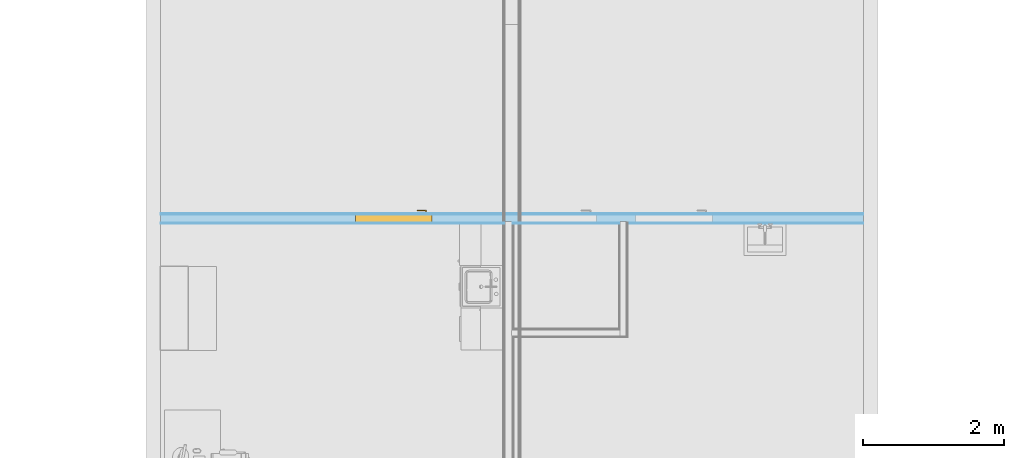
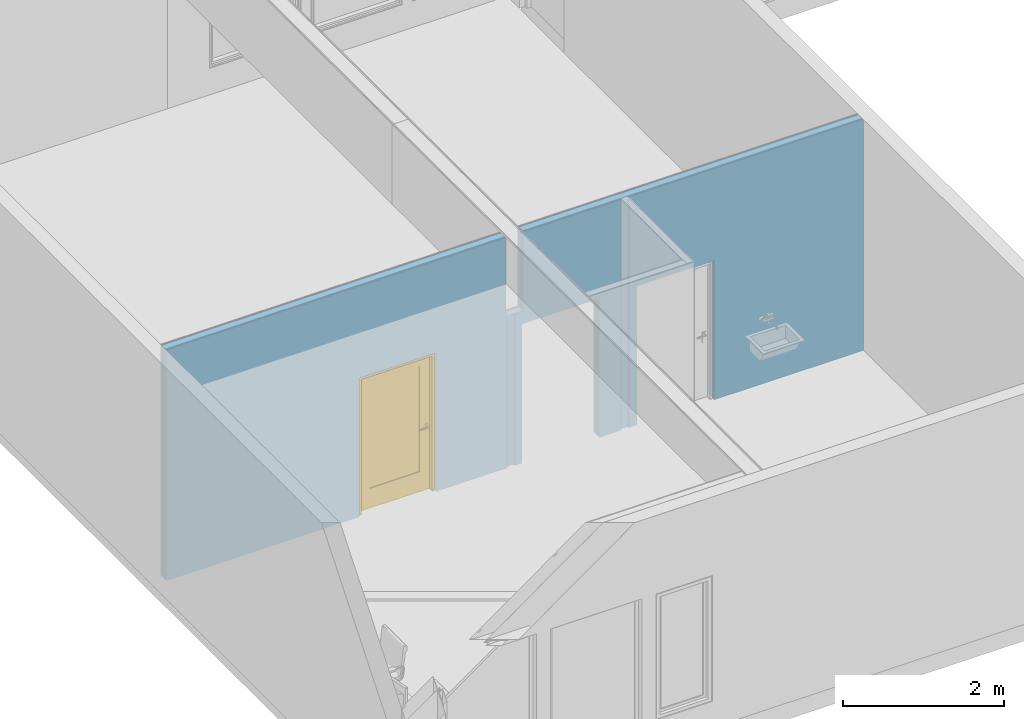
# One storey, part 5 of 12: 1 door, 3 openings, 1 element without a shape of its own, plus 9 elements that do not belong to this part.
"""IFC4 building model written with IfcOpenShell, lengths in millimetres."""

from ifc_helpers import new_model, entity, si_unit, converted_unit, direction, frame, origin, place, context, subcontext, project, spatial, indexed_curve, outline, extrude, polygons, source, transform, mapped, material, constituent, constituent_set, type_object, type_shapes, element, fill, aggregate, save


model = new_model("IFC4")

# Units and contexts
model_context = context("Model", 3, precision=0.01, world=origin(), true_north=direction((0.0, 1.0)))
body_context = subcontext(model_context, "Body", "Model", "MODEL_VIEW")
ifc_project = project(units=[si_unit("LENGTHUNIT", "METRE", prefix="MILLI"), si_unit("AREAUNIT", "SQUARE_METRE"), si_unit("VOLUMEUNIT", "CUBIC_METRE"), converted_unit("PLANEANGLEUNIT", "DEGREE", entity("IfcPlaneAngleMeasure", 0.017453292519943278), si_unit("PLANEANGLEUNIT", "RADIAN"), dimensions=[0, 0, 0, 0, 0, 0, 0])], contexts=[model_context])

# Site, building, storey
site_placement = place(None, origin())
site = spatial("IfcSite", under=ifc_project, at=site_placement, Name="Tomtens navn", CompositionType="ELEMENT")
building_placement = place(site_placement, origin())
building = spatial("IfcBuilding", under=site, at=building_placement, Name="Byggets navn", CompositionType="ELEMENT")
storey_placement = place(building_placement, frame((0.0, 0.0, 3500.0)))
storey = spatial("IfcBuildingStorey", under=building, at=storey_placement, Name="Level 02", CompositionType="ELEMENT", Elevation=3499.999999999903)

# Door
ifc_material_1 = material(Name="Rustfritt Stål", Category="Metal")
ifc_constituent_1 = constituent(ifc_material_1, Name="Rustfritt Stål", Category="Metal", fraction=0.0022938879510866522)
ifc_material_2 = material(Name="Hvit", Category="Paint")
ifc_constituent_2 = constituent(ifc_material_2, Name="Hvit", Category="Paint", fraction=0.7662232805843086)
ifc_material_3 = material(Name="NO_Glass", Category="Glass")
ifc_constituent_3 = constituent(ifc_material_3, Name="NO_Glass", Category="Glass", fraction=0.23148283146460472)
ifc_constituent_set_1 = constituent_set(constituents=[ifc_constituent_1, ifc_constituent_2, ifc_constituent_3])
ifc_constituent_4 = constituent(ifc_material_1, Name="Rustfritt Stål", Category="Metal", fraction=0.0012987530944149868)
ifc_constituent_5 = constituent(ifc_material_2, Name="Panel", Category="Paint", fraction=0.4338201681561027)
ifc_constituent_6 = constituent(ifc_material_3, Name="Glass", Category="Glass", fraction=0.13106091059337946)
ifc_constituent_7 = constituent(ifc_material_2, Name="Frame/Mullion", Category="Paint", fraction=0.4338201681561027)
ifc_constituent_set_2 = constituent_set(constituents=[ifc_constituent_4, ifc_constituent_5, ifc_constituent_6, ifc_constituent_7])
door_type = type_object("IfcDoorType", Name="Enfløyet:ID1 Glassdør 11x21M 38dB", OperationType="SINGLE_SWING_LEFT", PredefinedType="DOOR", material=ifc_constituent_set_2)
shared_shape = source(origin(), body_context, "Body", "SweptSolid", [
    extrude(outline(indexed_curve([(-33.33333333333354, -50.833333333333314), (24.166666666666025, -50.833333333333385), (24.16666666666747, 86.66666666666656), (9.16666666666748, 86.6666666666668), (9.166666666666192, -35.83333333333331), (-33.33333333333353, -35.83333333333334), (-33.33333333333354, -50.833333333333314)], self_intersect=False)), frame((968.6666666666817, 147.94103942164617, 980.5000000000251), z_axis=(0.0, 0.0, 1.0), x_axis=(0.0, 1.0, 0.0)), (0.0, 0.0, 1.0), 14.999999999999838),
    extrude(outline(indexed_curve([(-2.8000000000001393, -25.000000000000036), (2.799999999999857, -25.000000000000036), (2.8000000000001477, 25.000000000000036), (-2.799999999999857, 24.999999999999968), (-2.8000000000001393, -25.000000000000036)], self_intersect=False)), frame((1012.0, 111.80000000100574, 850.9862950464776), z_axis=(0.0, 0.0, 1.0), x_axis=(0.0, -1.0, 0.0)), (0.0, 0.0, 1.0), 159.01370495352),
    extrude(outline(indexed_curve([(-50.83333333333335, -33.33333333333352), (-35.83333333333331, -33.33333333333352), (-35.83333333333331, 9.16666666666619), (86.66666666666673, 9.1666666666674), (86.66666666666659, 24.16666666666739), (-50.83333333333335, 24.16666666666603), (-50.83333333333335, -33.33333333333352)], self_intersect=False)), frame((968.6666666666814, 30.058960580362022, 980.5000000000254), z_axis=(0.0, 0.0, 1.0), x_axis=(-1.0, 0.0, 0.0)), (0.0, 0.0, 1.0), 14.999999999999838),
    extrude(outline(indexed_curve([(-24.999999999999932, -2.799999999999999), (25.00000000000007, -2.799999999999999), (25.0, 2.799999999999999), (-24.999999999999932, 2.800000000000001), (-24.999999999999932, -2.799999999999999)], self_intersect=False)), frame((1012.0, 66.20000000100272, 850.9862950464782)), (0.0, 0.0, 1.0), 159.01370495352),
    extrude(outline(indexed_curve([(-1021.0, -506.99999999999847), (1021.0, -506.9999999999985), (1021.0, 506.99999999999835), (-1021.0, 506.99999999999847), (-1021.0, -506.99999999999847)], self_intersect=False), holes=[indexed_curve([(-878.9999999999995, -350.00000000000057), (-878.9999999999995, 365.00000000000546), (721.0000000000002, 365.00000000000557), (721.0000000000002, -350.00000000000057), (-878.9999999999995, -350.00000000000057)], self_intersect=False)]), frame((555.0, 109.00000000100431, 1031.0), z_axis=(0.0, -1.0, 0.0), x_axis=(0.0, 0.0, -1.0)), (0.0, 0.0, 1.0), 39.99999999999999),
    extrude(outline(indexed_curve([(-7.5000000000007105, -357.500000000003), (7.500000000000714, -357.500000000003), (7.500000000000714, 357.500000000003), (-7.5000000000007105, 357.500000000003), (-7.5000000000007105, -357.500000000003)], self_intersect=False)), frame((562.50000000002, 89.00000000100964, 310.0), z_axis=(0.0, 0.0, 1.0), x_axis=(0.0, -1.0, 0.0)), (0.0, 0.0, 1.0), 1599.9999999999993),
    extrude(outline(indexed_curve([(506.99999999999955, -1035.5000000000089), (544.9999999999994, -1035.5000000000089), (544.9999999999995, 1054.5000000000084), (-544.9999999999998, 1054.5000000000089), (-544.9999999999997, -1035.5000000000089), (-506.99999999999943, -1035.5000000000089), (-506.99999999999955, 1016.5000000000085), (506.99999999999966, 1016.5000000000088), (506.99999999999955, -1035.5000000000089)], self_intersect=False)), frame((555.0, 109.00000000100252, 1035.5000000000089), z_axis=(0.0, -1.0, 0.0), x_axis=(1.0, 0.0, 0.0)), (0.0, 0.0, 1.0), 99.99999999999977),
])
type_shapes(door_type, [shared_shape])
wall_placement = place(storey_placement, frame((58622.85352810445, 14081.966456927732, 0.0)))
opening_3_placement = place(wall_placement, frame((2763.5000000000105, -74.50000000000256, 0.0)))
door_placement = place(opening_3_placement, frame((0.0, 20.0, 0.0)))
door = element("IfcDoor", 1, at=door_placement, inside=storey, type_object=door_type, material=ifc_constituent_set_1, Name="Enfløyet:ID1 Glassdør 11x21M 38dB", OverallHeight=2110.0000000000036, OverallWidth=1109.9999999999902, PredefinedType="DOOR", context=body_context, shape_type="MappedRepresentation", body=[
    mapped(shared_shape, transform((0.0, 0.0, 0.0), scale=1.0)),
])

# Wall, openings
wall_type = type_object("IfcWallType", Name="Basic Wall:IV05 - Forestia+Gips- Stender-kryssfiner- Gips", PredefinedType="STANDARD")
wall = element("IfcWall", 2, at=wall_placement, inside=storey, type_object=wall_type, Name="Basic Wall:IV05 - Forestia+Gips- Stender-kryssfiner- Gips", PredefinedType="NOTDEFINED")
opening_1_placement = place(wall_placement, frame((6750.0, -74.50000000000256, 0.0)))
element("IfcOpeningElement", 3, at=opening_1_placement, cuts=wall, Name="Enfløyet:ID03 Tredør 11x21M - EI30:1", PredefinedType="OPENING", context=body_context, shape_type="SweptSolid", body=[
    extrude(outline(indexed_curve([(0.0, -8.147794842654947e-29), (2110.0000000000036, -8.147794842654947e-29), (2110.000000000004, 1109.9999999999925), (0.0, 1109.9999999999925), (0.0, -8.147794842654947e-29)], self_intersect=False)), frame((0.0, 0.0, 0.0), z_axis=(0.0, 1.0, 0.0), x_axis=(0.0, 0.0, 1.0)), (0.0, 0.0, 1.0), 149.0),
])
opening_2_placement = place(wall_placement, frame((5102.500000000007, -74.50000000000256, 0.0)))
element("IfcOpeningElement", 4, at=opening_2_placement, cuts=wall, Name="Enfløyet:ID03 Tredør 11x21M - EI30:1", PredefinedType="OPENING", context=body_context, shape_type="SweptSolid", body=[
    extrude(outline(indexed_curve([(0.0, -8.147794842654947e-29), (2110.0000000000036, -8.147794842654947e-29), (2110.000000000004, 1109.9999999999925), (0.0, 1109.9999999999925), (0.0, -8.147794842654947e-29)], self_intersect=False)), frame((0.0, 0.0, 0.0), z_axis=(0.0, 1.0, 0.0), x_axis=(0.0, 0.0, 1.0)), (0.0, 0.0, 1.0), 149.0),
])
opening_3 = element("IfcOpeningElement", 5, at=opening_3_placement, cuts=wall, Name="Enfløyet:ID1 Glassdør 11x21M 38dB:1", PredefinedType="OPENING", context=body_context, shape_type="SweptSolid", body=[
    extrude(outline(indexed_curve([(0.0, -8.147794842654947e-29), (2110.0000000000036, -8.147794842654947e-29), (2110.000000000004, 1109.9999999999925), (0.0, 1109.9999999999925), (0.0, -8.147794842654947e-29)], self_intersect=False)), frame((0.0, 0.0, 0.0), z_axis=(0.0, 1.0, 0.0), x_axis=(0.0, 0.0, 1.0)), (0.0, 0.0, 1.0), 149.0),
])

fill(opening_3, door)

# Building element part
ifc_material_4 = material(Name="NO_Kryssfiner", Category="Tre")
building_element_part_1_placement = place(wall_placement, frame((4994.499999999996, -61.5, 0.0)))
building_element_part_1 = element("IfcBuildingElementPart", 6, at=building_element_part_1_placement, material=ifc_material_4, Name="NO_Kryssfiner", context=body_context, shape_type="Tessellation", body=[
    polygons([(108.00000000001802, 14.999999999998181, 9.094947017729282e-13), (108.00000000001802, 15.0, 2110.000000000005), (108.00000000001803, 1.8189894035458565e-12, 2110.000000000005), (108.00000000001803, 1.8189894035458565e-12, 9.094947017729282e-13), (1218.0000000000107, 15.0, 2110.000000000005), (1218.0000000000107, 3.637978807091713e-12, 2110.000000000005), (1218.0000000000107, 15.0, 9.094947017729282e-13), (1218.0000000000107, 3.637978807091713e-12, 9.094947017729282e-13), (131.00000000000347, 14.999999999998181, 3500.000000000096), (131.00000000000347, 14.999999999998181, 2290.000000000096), (131.00000000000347, 1.8189894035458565e-12, 2290.000000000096), (131.00000000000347, 1.8189894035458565e-12, 3500.000000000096), (1541.0000000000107, 15.0, 1.8189894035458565e-12), (1541.0000000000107, 3.637978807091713e-12, 9.094947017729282e-13), (1541.0000000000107, 15.000000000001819, 3500.000000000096), (1541.0000000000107, 3.637978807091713e-12, 3500.000000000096), (1.0749273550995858e-11, 15.0, 2290.000000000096), (1.0749273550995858e-11, 15.0, 9.094947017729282e-13), (1.0753337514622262e-11, 1.8189894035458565e-12, 9.094947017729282e-13), (1.0753337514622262e-11, 1.8189894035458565e-12, 2290.000000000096)], [[[1, 2, 3, 4]], [[2, 5, 6, 3]], [[5, 7, 8, 6]], [[9, 10, 11, 12]], [[8, 7, 13, 14]], [[13, 15, 16, 14]], [[17, 18, 19, 20]], [[1, 4, 19, 18]], [[11, 10, 17, 20]], [[9, 12, 16, 15]], [[12, 11, 20, 19, 4, 3, 6, 8, 14, 16]], [[7, 5, 2, 1, 18, 17, 10, 9, 15, 13]]], closed=True),
])

building_element_part_2_placement = place(wall_placement, frame((6630.500000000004, -61.49999999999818, 0.0)))
building_element_part_2 = element("IfcBuildingElementPart", 7, at=building_element_part_2_placement, material=ifc_material_4, Name="NO_Kryssfiner", context=body_context, shape_type="Tessellation", body=[
    polygons([(3369.499999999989, 3.637978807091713e-12, 3500.000000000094), (3369.499999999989, 15.0, 3500.000000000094), (-3.8026416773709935e-12, 15.000000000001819, 3500.000000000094), (-3.79857771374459e-12, 3.637978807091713e-12, 3500.000000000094), (3369.499999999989, 15.0, 0.0), (3369.499999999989, 3.637978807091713e-12, -9.094947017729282e-13), (119.49999999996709, 15.0, -9.094947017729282e-13), (119.49999999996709, 15.0, 2110.000000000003), (119.4999999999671, 3.637978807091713e-12, 2110.000000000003), (119.4999999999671, 3.637978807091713e-12, -9.094947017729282e-13), (1229.4999999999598, 15.0, 2110.000000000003), (1229.4999999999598, 3.637978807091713e-12, 2110.000000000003), (1229.4999999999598, 15.0, -9.094947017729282e-13), (1229.4999999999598, 3.637978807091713e-12, -9.094947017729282e-13), (-3.8026416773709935e-12, 15.0, -9.094947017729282e-13), (-3.79857771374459e-12, 3.637978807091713e-12, -9.094947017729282e-13)], [[[1, 2, 3, 4]], [[5, 2, 1, 6]], [[7, 8, 9, 10]], [[8, 11, 12, 9]], [[11, 13, 14, 12]], [[13, 5, 6, 14]], [[3, 15, 16, 4]], [[7, 10, 16, 15]], [[14, 6, 1, 4, 16, 10, 9, 12]], [[5, 13, 11, 8, 7, 15, 3, 2]]], closed=True),
])

building_element_part_3_placement = place(wall_placement, frame((0.0, -61.5, 0.0)))
building_element_part_3 = element("IfcBuildingElementPart", 8, at=building_element_part_3_placement, material=ifc_material_4, Name="NO_Kryssfiner", context=body_context, shape_type="Tessellation", body=[
    polygons([(3873.500000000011, 15.000000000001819, 9.094947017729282e-13), (3873.500000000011, 15.000000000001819, 2110.000000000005), (2763.500000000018, 15.000000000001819, 2110.000000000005), (2763.500000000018, 15.000000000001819, 9.094947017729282e-13), (1.8025231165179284e-11, 15.000000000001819, 9.094947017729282e-13), (1.8025231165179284e-11, 15.000000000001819, 3500.000000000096), (4873.499999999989, 15.000000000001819, 3500.000000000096), (4873.500000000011, 15.000000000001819, 2290.000000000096), (4899.500000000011, 15.000000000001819, 2290.000000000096), (4899.500000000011, 15.000000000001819, 9.094947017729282e-13), (4873.500000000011, 3.637978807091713e-12, 2290.000000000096), (4873.499999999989, 3.637978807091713e-12, 3500.000000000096), (1.8029295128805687e-11, 3.637978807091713e-12, 3500.000000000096), (1.8029295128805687e-11, 3.637978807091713e-12, 9.094947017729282e-13), (2763.500000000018, 3.637978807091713e-12, 9.094947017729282e-13), (2763.500000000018, 3.637978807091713e-12, 2110.000000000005), (3873.500000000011, 3.637978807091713e-12, 2110.000000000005), (3873.500000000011, 3.637978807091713e-12, 1.8189894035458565e-12), (4899.500000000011, 3.637978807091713e-12, 9.094947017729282e-13), (4899.500000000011, 3.637978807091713e-12, 2290.000000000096)], [[[1, 2, 3, 4, 5, 6, 7, 8, 9, 10]], [[11, 12, 13, 14, 15, 16, 17, 18, 19, 20]], [[5, 4, 15, 14]], [[6, 5, 14, 13]], [[8, 7, 12, 11]], [[8, 11, 20, 9]], [[4, 3, 16, 15]], [[3, 2, 17, 16]], [[2, 1, 18, 17]], [[7, 6, 13, 12]], [[18, 1, 10, 19]], [[10, 9, 20, 19]]], closed=True),
])

ifc_material_5 = material(Name="NO_platekledning forestia", Category="Tre")
building_element_part_4_placement = place(wall_placement, frame((0.0, 61.49999999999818, 0.0)))
building_element_part_4 = element("IfcBuildingElementPart", 9, at=building_element_part_4_placement, material=ifc_material_5, Name="NO_platekledning forestia", context=body_context, shape_type="Tessellation", body=[
    polygons([(7859.9999999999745, 0.0, 9.094947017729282e-13), (10000.000000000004, 0.0, 9.094947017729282e-13), (10000.000000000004, 0.0, 3500.000000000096), (5125.500000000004, -1.8189894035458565e-12, 3500.000000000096), (5125.500000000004, -1.8189894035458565e-12, 2290.000000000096), (4873.500000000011, 3.637978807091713e-12, 2290.000000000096), (4873.499999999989, 3.637978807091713e-12, 3500.000000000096), (1.7995970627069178e-11, 3.637978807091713e-12, 3500.000000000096), (1.7995970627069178e-11, 3.637978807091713e-12, 9.094947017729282e-13), (2763.500000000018, 3.637978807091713e-12, 9.094947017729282e-13), (2763.500000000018, 3.637978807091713e-12, 2110.000000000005), (3873.500000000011, 3.637978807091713e-12, 2110.000000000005), (3873.500000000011, 3.637978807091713e-12, 9.094947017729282e-13), (5102.500000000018, -1.8189894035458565e-12, 9.094947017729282e-13), (5102.500000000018, -1.8189894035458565e-12, 2110.000000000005), (6212.500000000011, 0.0, 2110.000000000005), (6212.500000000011, 0.0, 9.094947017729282e-13), (6749.999999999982, 0.0, 9.094947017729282e-13), (6749.999999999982, 0.0, 2110.000000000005), (7859.9999999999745, 0.0, 2110.000000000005), (1.7992448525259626e-11, 13.000000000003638, 9.094947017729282e-13), (2763.500000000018, 13.000000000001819, 9.094947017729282e-13), (10000.000000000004, 13.000000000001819, 3500.000000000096), (5125.500000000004, 13.000000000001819, 3500.000000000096), (9999.999999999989, 13.000000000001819, 9.094947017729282e-13), (6749.999999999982, 13.000000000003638, 9.094947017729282e-13), (6749.999999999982, 13.000000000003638, 2110.000000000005), (7859.9999999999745, 13.000000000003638, 2110.000000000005), (7859.9999999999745, 13.000000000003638, 9.094947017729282e-13), (5102.500000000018, 13.000000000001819, 9.094947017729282e-13), (5102.500000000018, 13.000000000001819, 2110.000000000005), (6212.500000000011, 13.000000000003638, 2110.000000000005), (6212.500000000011, 13.000000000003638, 9.094947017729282e-13), (1.7992448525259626e-11, 13.000000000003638, 3500.000000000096), (4873.500000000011, 13.000000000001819, 2290.000000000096), (4873.499999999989, 13.000000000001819, 3500.000000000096), (5125.500000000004, 13.000000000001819, 2290.000000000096), (2763.500000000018, 13.000000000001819, 2110.000000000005), (3873.500000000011, 13.000000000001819, 2110.000000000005), (3873.500000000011, 13.000000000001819, 9.094947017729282e-13)], [[[1, 2, 3, 4, 5, 6, 7, 8, 9, 10, 11, 12, 13, 14, 15, 16, 17, 18, 19, 20]], [[21, 22, 10, 9]], [[23, 24, 4, 3]], [[25, 23, 3, 2]], [[26, 27, 19, 18]], [[27, 28, 20, 19]], [[28, 29, 1, 20]], [[30, 31, 15, 14]], [[31, 32, 16, 15]], [[32, 33, 17, 16]], [[34, 21, 9, 8]], [[35, 36, 7, 6]], [[24, 37, 5, 4]], [[37, 35, 6, 5]], [[22, 38, 11, 10]], [[38, 39, 12, 11]], [[39, 40, 13, 12]], [[36, 34, 8, 7]], [[40, 30, 14, 13]], [[33, 26, 18, 17]], [[29, 25, 2, 1]], [[23, 25, 29, 28, 27, 26, 33, 32, 31, 30, 40, 39, 38, 22, 21, 34, 36, 35, 37, 24]]], closed=True),
])

ifc_material_6 = material(Name="Stender", Category="Unassigned")
building_element_part_5_placement = place(wall_placement, frame((0.0, -46.50000000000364, 0.0)))
building_element_part_5 = element("IfcBuildingElementPart", 10, at=building_element_part_5_placement, material=ifc_material_6, Name="Stender", context=body_context, shape_type="Tessellation", body=[
    polygons([(7859.9999999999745, 5.4569682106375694e-12, 1.8189894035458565e-12), (10000.000000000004, 5.4569682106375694e-12, 1.8189894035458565e-12), (10000.000000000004, 5.4569682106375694e-12, 3500.000000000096), (5125.500000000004, 3.637978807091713e-12, 3500.000000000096), (5125.500000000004, 3.637978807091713e-12, 2290.000000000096), (4873.500000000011, 5.4569682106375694e-12, 2290.000000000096), (4873.499999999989, 5.4569682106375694e-12, 3500.000000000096), (1.8025231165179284e-11, 5.4569682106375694e-12, 3500.000000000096), (1.8025231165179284e-11, 5.4569682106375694e-12, 9.094947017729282e-13), (2763.500000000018, 5.4569682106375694e-12, 9.094947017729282e-13), (2763.500000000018, 5.4569682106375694e-12, 2110.000000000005), (3873.500000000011, 5.4569682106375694e-12, 2110.000000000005), (3873.500000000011, 5.4569682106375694e-12, 9.094947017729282e-13), (5102.500000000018, 3.637978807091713e-12, 9.094947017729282e-13), (5102.500000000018, 3.637978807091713e-12, 2110.000000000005), (6212.500000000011, 5.4569682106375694e-12, 2110.000000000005), (6212.500000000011, 5.4569682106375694e-12, 1.8189894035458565e-12), (6749.999999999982, 5.4569682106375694e-12, 9.094947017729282e-13), (6749.999999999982, 5.4569682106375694e-12, 2110.000000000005), (7859.9999999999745, 5.4569682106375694e-12, 2110.000000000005), (10000.000000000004, 95.00000000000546, 1.8189894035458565e-12), (7859.9999999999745, 95.00000000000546, 9.094947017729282e-13), (7859.9999999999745, 95.00000000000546, 2110.000000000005), (6749.999999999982, 95.00000000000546, 2110.000000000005), (6749.999999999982, 95.00000000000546, 9.094947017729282e-13), (6212.500000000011, 95.00000000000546, 9.094947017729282e-13), (6212.500000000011, 95.00000000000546, 2110.000000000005), (5102.500000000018, 95.00000000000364, 2110.000000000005), (5102.500000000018, 95.00000000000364, 9.094947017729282e-13), (3873.500000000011, 95.00000000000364, 9.094947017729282e-13), (3873.500000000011, 95.00000000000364, 2110.000000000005), (2763.500000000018, 95.00000000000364, 2110.000000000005), (2763.500000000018, 95.00000000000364, 9.094947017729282e-13), (1.7999492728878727e-11, 95.00000000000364, 9.094947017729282e-13), (1.7999492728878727e-11, 95.00000000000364, 3500.000000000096), (4873.499999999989, 95.00000000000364, 3500.000000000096), (4873.500000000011, 95.00000000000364, 2290.000000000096), (5125.500000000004, 95.00000000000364, 2290.000000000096), (5125.500000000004, 95.00000000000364, 3500.000000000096), (10000.000000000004, 95.00000000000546, 3500.000000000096)], [[[1, 2, 3, 4, 5, 6, 7, 8, 9, 10, 11, 12, 13, 14, 15, 16, 17, 18, 19, 20]], [[21, 22, 23, 24, 25, 26, 27, 28, 29, 30, 31, 32, 33, 34, 35, 36, 37, 38, 39, 40]], [[9, 34, 33, 10]], [[3, 40, 39, 4]], [[2, 21, 40, 3]], [[18, 25, 24, 19]], [[19, 24, 23, 20]], [[22, 1, 20, 23]], [[14, 29, 28, 15]], [[15, 28, 27, 16]], [[26, 17, 16, 27]], [[34, 9, 8, 35]], [[36, 7, 6, 37]], [[4, 39, 38, 5]], [[37, 6, 5, 38]], [[10, 33, 32, 11]], [[11, 32, 31, 12]], [[30, 13, 12, 31]], [[35, 8, 7, 36]], [[29, 14, 13, 30]], [[25, 18, 17, 26]], [[21, 2, 1, 22]]], closed=True),
])

ifc_material_7 = material(Name="Gipsplater", Category="NOR ^ Gips")
building_element_part_6_placement = place(wall_placement, frame((5009.499999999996, -74.50000000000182, 0.0)))
building_element_part_6 = element("IfcBuildingElementPart", 11, at=building_element_part_6_placement, material=ifc_material_7, Name="Gipsplater", context=body_context, shape_type="Tessellation", body=[
    polygons([(93.00000000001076, 13.000000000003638, 9.094947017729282e-13), (93.00000000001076, 13.000000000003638, 2110.000000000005), (93.00000000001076, 0.0, 2110.000000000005), (93.00000000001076, 0.0, 9.094947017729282e-13), (1203.0000000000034, 13.000000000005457, 2110.000000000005), (1203.0000000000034, 1.8189894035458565e-12, 2110.000000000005), (1203.0000000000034, 13.000000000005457, 9.094947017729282e-13), (1203.0000000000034, 1.8189894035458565e-12, 9.094947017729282e-13), (115.9999999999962, 13.000000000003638, 3500.000000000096), (115.9999999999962, 13.000000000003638, 2290.000000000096), (115.9999999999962, 0.0, 2290.000000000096), (115.9999999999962, 0.0, 3500.000000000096), (1513.0000000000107, 13.000000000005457, 9.094947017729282e-13), (1513.0000000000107, 1.8189894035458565e-12, 9.094947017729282e-13), (1513.0000000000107, 13.000000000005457, 3500.000000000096), (1513.0000000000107, 1.8189894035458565e-12, 3500.000000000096), (3.4773799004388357e-12, 13.000000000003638, 2290.000000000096), (3.4773799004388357e-12, 13.000000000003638, 9.094947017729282e-13), (3.480902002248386e-12, 0.0, 9.094947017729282e-13), (3.480902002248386e-12, 0.0, 2290.000000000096), (13.000000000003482, 0.0, 2290.000000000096), (13.000000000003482, 0.0, 9.094947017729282e-13)], [[[1, 2, 3, 4]], [[2, 5, 6, 3]], [[5, 7, 8, 6]], [[9, 10, 11, 12]], [[8, 7, 13, 14]], [[13, 15, 16, 14]], [[17, 18, 19, 20]], [[16, 12, 11, 21, 20, 19, 22, 4, 3, 6, 8, 14]], [[1, 4, 22, 19, 18]], [[11, 10, 17, 20, 21]], [[9, 12, 16, 15]], [[7, 5, 2, 1, 18, 17, 10, 9, 15, 13]]], closed=True),
])

building_element_part_7_placement = place(wall_placement, frame((6643.499999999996, -74.50000000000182, 0.0)))
building_element_part_7 = element("IfcBuildingElementPart", 12, at=building_element_part_7_placement, material=ifc_material_7, Name="Gipsplater", context=body_context, shape_type="Tessellation", body=[
    polygons([(1.803281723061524e-11, 3.637978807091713e-12, 3500.000000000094), (3356.499999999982, 1.8189894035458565e-12, 3500.000000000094), (3356.4999999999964, 13.000000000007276, 3500.000000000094), (1.8029295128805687e-11, 13.000000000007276, 3500.000000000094), (3356.4999999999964, 13.000000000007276, -9.094947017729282e-13), (3356.4999999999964, 1.8189894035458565e-12, -9.094947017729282e-13), (106.49999999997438, 13.000000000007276, -9.094947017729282e-13), (106.49999999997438, 13.000000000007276, 2110.000000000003), (106.49999999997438, 3.637978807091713e-12, 2110.000000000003), (106.49999999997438, 3.637978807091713e-12, -9.094947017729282e-13), (1216.499999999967, 13.000000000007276, 2110.000000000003), (1216.499999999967, 3.637978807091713e-12, 2110.000000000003), (1216.499999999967, 13.000000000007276, -9.094947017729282e-13), (1216.499999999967, 3.637978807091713e-12, -9.094947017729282e-13), (1.8029295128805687e-11, 13.000000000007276, -9.094947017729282e-13), (1.803281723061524e-11, 3.637978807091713e-12, -9.094947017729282e-13)], [[[1, 2, 3, 4]], [[5, 3, 2, 6]], [[7, 8, 9, 10]], [[8, 11, 12, 9]], [[11, 13, 14, 12]], [[13, 5, 6, 14]], [[4, 15, 16, 1]], [[2, 1, 16, 10, 9, 12, 14, 6]], [[7, 10, 16, 15]], [[5, 13, 11, 8, 7, 15, 4, 3]]], closed=True),
])

building_element_part_8_placement = place(wall_placement, frame((0.0, -74.50000000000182, 0.0)))
building_element_part_8 = element("IfcBuildingElementPart", 13, at=building_element_part_8_placement, material=ifc_material_7, Name="Gipsplater", context=body_context, shape_type="Tessellation", body=[
    polygons([(3873.500000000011, 13.000000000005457, 0.0), (3873.500000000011, 13.000000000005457, 2110.000000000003), (2763.500000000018, 13.000000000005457, 2110.000000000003), (2763.500000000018, 13.000000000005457, -9.094947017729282e-13), (1.8029295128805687e-11, 13.000000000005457, -9.094947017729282e-13), (1.8029295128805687e-11, 13.000000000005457, 3500.000000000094), (4873.499999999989, 13.000000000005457, 3500.000000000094), (4873.500000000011, 13.000000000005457, 2290.000000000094), (4886.500000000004, 13.000000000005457, 2290.000000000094), (4886.500000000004, 13.000000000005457, 0.0), (2763.500000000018, 1.8189894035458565e-12, -9.094947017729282e-13), (1.803281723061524e-11, 3.637978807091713e-12, -9.094947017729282e-13), (1.803281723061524e-11, 3.637978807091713e-12, 3500.000000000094), (4873.499999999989, 1.8189894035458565e-12, 3500.000000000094), (4873.499999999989, 1.8189894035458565e-12, 2290.000000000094), (4886.500000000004, 1.8189894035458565e-12, 2290.000000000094), (2763.500000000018, 1.8189894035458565e-12, 2110.000000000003), (3873.500000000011, 1.8189894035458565e-12, 2110.000000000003), (3873.500000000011, 1.8189894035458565e-12, -9.094947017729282e-13), (4886.500000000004, 1.8189894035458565e-12, -9.094947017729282e-13), (4873.500000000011, 1.8189894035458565e-12, -9.094947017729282e-13)], [[[1, 2, 3, 4, 5, 6, 7, 8, 9, 10]], [[5, 4, 11, 12]], [[6, 5, 12, 13]], [[8, 7, 14, 15]], [[8, 15, 16, 9]], [[4, 3, 17, 11]], [[3, 2, 18, 17]], [[2, 1, 19, 18]], [[7, 6, 13, 14]], [[19, 1, 10, 20, 21]], [[12, 11, 17, 18, 19, 21, 20, 16, 15, 14, 13]], [[10, 9, 16, 20]]], closed=True),
])

building_element_part_9_placement = place(wall_placement, frame((0.0, 48.49999999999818, 0.0)))
building_element_part_9 = element("IfcBuildingElementPart", 14, at=building_element_part_9_placement, material=ifc_material_7, Name="Gipsplater", context=body_context, shape_type="Tessellation", body=[
    polygons([(10000.000000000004, 13.0, 9.094947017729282e-13), (7859.9999999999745, 13.0, 9.094947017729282e-13), (7859.9999999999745, 13.0, 2110.000000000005), (6749.999999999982, 13.0, 2110.000000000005), (6749.999999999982, 13.0, 9.094947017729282e-13), (6212.500000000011, 13.0, 9.094947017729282e-13), (6212.500000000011, 13.0, 2110.000000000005), (5102.500000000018, 12.999999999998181, 2110.000000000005), (5102.500000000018, 12.999999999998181, 9.094947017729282e-13), (3873.500000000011, 13.000000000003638, 9.094947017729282e-13), (3873.500000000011, 13.000000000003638, 2110.000000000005), (2763.500000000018, 13.000000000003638, 2110.000000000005), (2763.500000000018, 13.000000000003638, 9.094947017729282e-13), (1.7995970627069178e-11, 13.000000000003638, 9.094947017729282e-13), (1.7995970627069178e-11, 13.000000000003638, 3500.000000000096), (4873.499999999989, 13.000000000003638, 3500.000000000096), (4873.500000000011, 13.000000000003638, 2290.000000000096), (5125.500000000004, 12.999999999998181, 2290.000000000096), (5125.500000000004, 12.999999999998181, 3500.000000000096), (10000.000000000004, 13.0, 3500.000000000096), (7859.9999999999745, 3.637978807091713e-12, 9.094947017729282e-13), (10000.000000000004, 3.637978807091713e-12, 1.8189894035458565e-12), (10000.000000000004, 3.637978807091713e-12, 3500.000000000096), (5125.500000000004, 1.8189894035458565e-12, 3500.000000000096), (5125.500000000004, 1.8189894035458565e-12, 2290.000000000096), (4873.500000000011, 1.8189894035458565e-12, 2290.000000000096), (4873.499999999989, 1.8189894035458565e-12, 3500.000000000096), (1.7999492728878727e-11, 1.8189894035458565e-12, 3500.000000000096), (1.7999492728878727e-11, 1.8189894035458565e-12, 9.094947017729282e-13), (2763.500000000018, 1.8189894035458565e-12, 9.094947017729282e-13), (2763.500000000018, 1.8189894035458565e-12, 2110.000000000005), (3873.500000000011, 1.8189894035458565e-12, 2110.000000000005), (3873.500000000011, 1.8189894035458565e-12, 9.094947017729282e-13), (5102.500000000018, 1.8189894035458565e-12, 9.094947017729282e-13), (5102.500000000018, 1.8189894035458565e-12, 2110.000000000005), (6212.500000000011, 3.637978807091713e-12, 2110.000000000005), (6212.500000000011, 3.637978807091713e-12, 9.094947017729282e-13), (6749.999999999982, 3.637978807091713e-12, 9.094947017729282e-13), (6749.999999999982, 3.637978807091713e-12, 2110.000000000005), (7859.9999999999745, 3.637978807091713e-12, 2110.000000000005)], [[[1, 2, 3, 4, 5, 6, 7, 8, 9, 10, 11, 12, 13, 14, 15, 16, 17, 18, 19, 20]], [[21, 22, 23, 24, 25, 26, 27, 28, 29, 30, 31, 32, 33, 34, 35, 36, 37, 38, 39, 40]], [[29, 14, 13, 30]], [[23, 20, 19, 24]], [[22, 1, 20, 23]], [[38, 5, 4, 39]], [[39, 4, 3, 40]], [[2, 21, 40, 3]], [[34, 9, 8, 35]], [[35, 8, 7, 36]], [[6, 37, 36, 7]], [[14, 29, 28, 15]], [[16, 27, 26, 17]], [[24, 19, 18, 25]], [[17, 26, 25, 18]], [[30, 13, 12, 31]], [[31, 12, 11, 32]], [[10, 33, 32, 11]], [[15, 28, 27, 16]], [[9, 34, 33, 10]], [[5, 38, 37, 6]], [[1, 22, 21, 2]]], closed=True),
])

aggregate(wall, [building_element_part_1, building_element_part_2, building_element_part_3, building_element_part_4, building_element_part_5, building_element_part_6, building_element_part_7, building_element_part_8, building_element_part_9])

save(model, "model.ifc")
